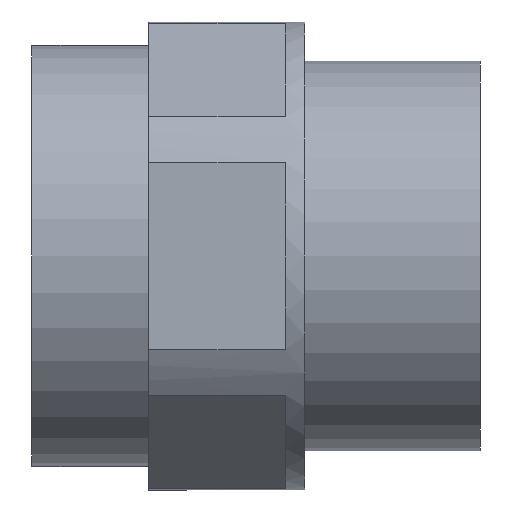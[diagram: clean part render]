
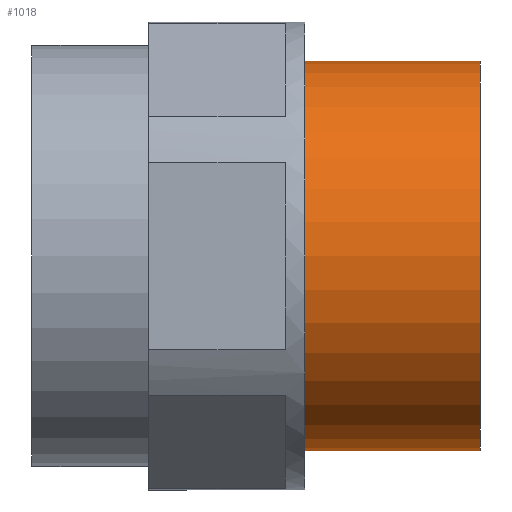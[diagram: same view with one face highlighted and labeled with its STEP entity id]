
A CAD part, left-side view. The second image highlights one B-rep face of the part: STEP entity #1018.
In plain terms, the highlighted cylindrical face has radius 10 mm (diameter 20 mm), a partial arc.
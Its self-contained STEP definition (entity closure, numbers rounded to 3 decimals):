
#6 = CYLINDRICAL_SURFACE ( 'NONE', #746, 10. ) ;
#13 = DIRECTION ( 'NONE',  ( 0., 1., 0. ) ) ;
#46 = LINE ( 'NONE', #902, #68 ) ;
#68 = VECTOR ( 'NONE', #761, 1000. ) ;
#75 = ORIENTED_EDGE ( 'NONE', *, *, #869, .T. ) ;
#105 = VECTOR ( 'NONE', #754, 1000. ) ;
#113 = VERTEX_POINT ( 'NONE', #254 ) ;
#118 = AXIS2_PLACEMENT_3D ( 'NONE', #539, #608, #533 ) ;
#133 = CIRCLE ( 'NONE', #118, 10. ) ;
#146 = CARTESIAN_POINT ( 'NONE',  ( 0., 0., 10. ) ) ;
#155 = DIRECTION ( 'NONE',  ( 0., -1., 0. ) ) ;
#160 = ORIENTED_EDGE ( 'NONE', *, *, #1033, .T. ) ;
#247 = EDGE_CURVE ( 'NONE', #936, #926, #46, .T. ) ;
#254 = CARTESIAN_POINT ( 'NONE',  ( 0., -9., 10. ) ) ;
#292 = DIRECTION ( 'NONE',  ( 0., 0., 1. ) ) ;
#404 = ORIENTED_EDGE ( 'NONE', *, *, #732, .F. ) ;
#525 = CARTESIAN_POINT ( 'NONE',  ( 0., -9., 10. ) ) ;
#533 = DIRECTION ( 'NONE',  ( 0., 0., 1. ) ) ;
#539 = CARTESIAN_POINT ( 'NONE',  ( 0., 0., 0. ) ) ;
#608 = DIRECTION ( 'NONE',  ( 0., -1., 0. ) ) ;
#644 = CIRCLE ( 'NONE', #983, 10. ) ;
#661 = VERTEX_POINT ( 'NONE', #146 ) ;
#664 = ORIENTED_EDGE ( 'NONE', *, *, #247, .F. ) ;
#713 = CARTESIAN_POINT ( 'NONE',  ( 0., -9., -10. ) ) ;
#732 = EDGE_CURVE ( 'NONE', #113, #936, #644, .T. ) ;
#738 = CARTESIAN_POINT ( 'NONE',  ( 0., -9., 0. ) ) ;
#746 = AXIS2_PLACEMENT_3D ( 'NONE', #738, #13, #292 ) ;
#754 = DIRECTION ( 'NONE',  ( 0., 1., 0. ) ) ;
#761 = DIRECTION ( 'NONE',  ( 0., 1., 0. ) ) ;
#763 = DIRECTION ( 'NONE',  ( 0., 0., -1. ) ) ;
#869 = EDGE_CURVE ( 'NONE', #661, #926, #133, .T. ) ;
#902 = CARTESIAN_POINT ( 'NONE',  ( 0., -9., -10. ) ) ;
#926 = VERTEX_POINT ( 'NONE', #989 ) ;
#936 = VERTEX_POINT ( 'NONE', #713 ) ;
#946 = FACE_OUTER_BOUND ( 'NONE', #1043, .T. ) ;
#979 = LINE ( 'NONE', #525, #105 ) ;
#983 = AXIS2_PLACEMENT_3D ( 'NONE', #995, #155, #763 ) ;
#989 = CARTESIAN_POINT ( 'NONE',  ( 0., 0., -10. ) ) ;
#995 = CARTESIAN_POINT ( 'NONE',  ( 0., -9., 0. ) ) ;
#1018 = ADVANCED_FACE ( 'NONE', ( #946 ), #6, .T. ) ;
#1033 = EDGE_CURVE ( 'NONE', #113, #661, #979, .T. ) ;
#1043 = EDGE_LOOP ( 'NONE', ( #664, #404, #160, #75 ) ) ;
